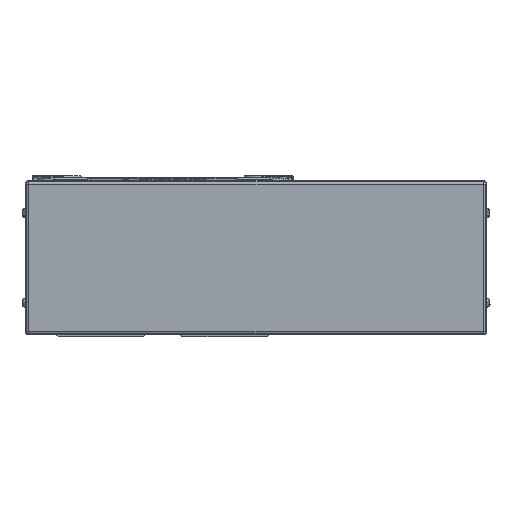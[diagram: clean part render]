
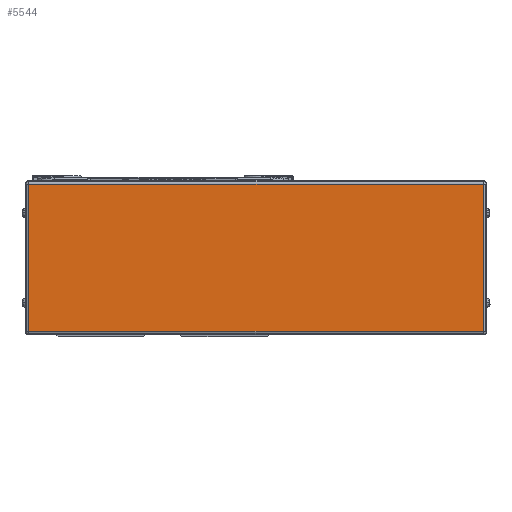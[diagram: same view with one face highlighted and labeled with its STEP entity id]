
A CAD part, left-side view. The second image highlights one B-rep face of the part: STEP entity #5544.
In plain terms, the highlighted planar face has unit normal (-1, 0, 0).
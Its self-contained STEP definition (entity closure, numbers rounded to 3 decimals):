
#5544=ADVANCED_FACE('',(#11464),#11465,.T.);
#11464=FACE_OUTER_BOUND('',#19152,.T.);
#11465=PLANE('',#19153);
#19152=EDGE_LOOP('',(#34941,#34942,#34943,#34944));
#19153=AXIS2_PLACEMENT_3D('',#34945,#34946,#34947);
#34941=ORIENTED_EDGE('',*,*,#43679,.F.);
#34942=ORIENTED_EDGE('',*,*,#38483,.F.);
#34943=ORIENTED_EDGE('',*,*,#43237,.F.);
#34944=ORIENTED_EDGE('',*,*,#44328,.F.);
#34945=CARTESIAN_POINT('',(-45.,-180.5,0.));
#34946=DIRECTION('',(-1.0,0.,0.));
#34947=DIRECTION('',(0.,0.,1.0));
#38483=EDGE_CURVE('',#45697,#45699,#45700,.T.);
#43237=EDGE_CURVE('',#46908,#45697,#52973,.T.);
#43679=EDGE_CURVE('',#45699,#53535,#53536,.T.);
#44328=EDGE_CURVE('',#53535,#46908,#54414,.T.);
#45697=VERTEX_POINT('',#56099);
#45699=VERTEX_POINT('',#56101);
#45700=LINE('',#56102,#56103);
#46908=VERTEX_POINT('',#57709);
#52973=LINE('',#66119,#66120);
#53535=VERTEX_POINT('',#66954);
#53536=LINE('',#66955,#66956);
#54414=LINE('',#68128,#68129);
#56099=CARTESIAN_POINT('',(-45.,74.5,41.));
#56101=CARTESIAN_POINT('',(-45.,-178.5,41.));
#56102=CARTESIAN_POINT('',(-45.,-180.5,41.));
#56103=VECTOR('',#69771,10.0);
#57709=CARTESIAN_POINT('',(-45.,74.5,-41.));
#66119=CARTESIAN_POINT('',(-45.,74.5,0.));
#66120=VECTOR('',#76088,10.0);
#66954=CARTESIAN_POINT('',(-45.,-178.5,-41.));
#66955=CARTESIAN_POINT('',(-45.,-178.5,0.));
#66956=VECTOR('',#76516,10.0);
#68128=CARTESIAN_POINT('',(-45.,-180.5,-41.));
#68129=VECTOR('',#77326,10.0);
#69771=DIRECTION('',(0.,-1.0,0.));
#76088=DIRECTION('',(0.,0.,1.0));
#76516=DIRECTION('',(0.,0.,-1.0));
#77326=DIRECTION('',(0.,1.0,0.));
